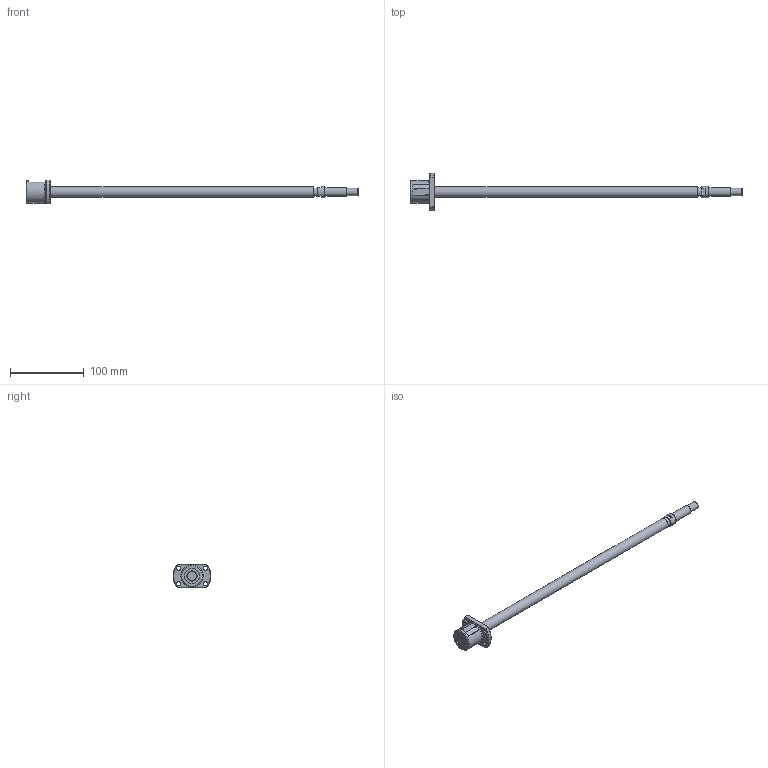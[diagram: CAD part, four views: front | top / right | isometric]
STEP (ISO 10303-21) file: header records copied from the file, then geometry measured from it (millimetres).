
FILE_DESCRIPTION( ( 'STEP AP203' ), '1' );
FILE_NAME( 'e:/temp/worker_90/temp/exporttempdir_2892_922_IaNYq/format_0/SG1404-390R450C3A1X(0).stp', '2021-10-19T02:32:04', ( 'License CC BY-ND 4.0' ), ( 'CADENAS' ), ' ', 'PARTsolutions', ' ' );
FILE_SCHEMA( ( 'CONFIG_CONTROL_DESIGN' ) );
Length unit declared in the file: millimetre
Products named in the file (3): SG1404-390R450C3A1X(0); _SG1404-390R450C3A_shaft; _SG1404_nut
Assembly tree (2 placements, depth 2):
  SG1404-390R450C3A1X(0)
    _SG1404-390R450C3A_shaft
    _SG1404_nut
Bounding box: 450 x 51 x 32 mm (x, y, z)
Volume: 88363 mm3; surface area: 27595.2 mm2
Topology: 2 solids, 2 shells, 78 faces, 190 edges, 124 vertices
Faces by surface type: plane 38, cylinder 26, cone 13, torus 1
Full cylindrical faces by diameter (mm): 5.5 x4, 10 x1, 12 x1, 12.16 x1, 14 x2, 15 x1, 21 x2, 29.6 x1, 30 x1
Entity records: 2270 total; most frequent: CARTESIAN_POINT 433, DIRECTION 376, ORIENTED_EDGE 312, AXIS2_PLACEMENT_3D 157, EDGE_CURVE 156, EDGE_LOOP 120, VERTEX_POINT 114, FACE_OUTER_BOUND 93
